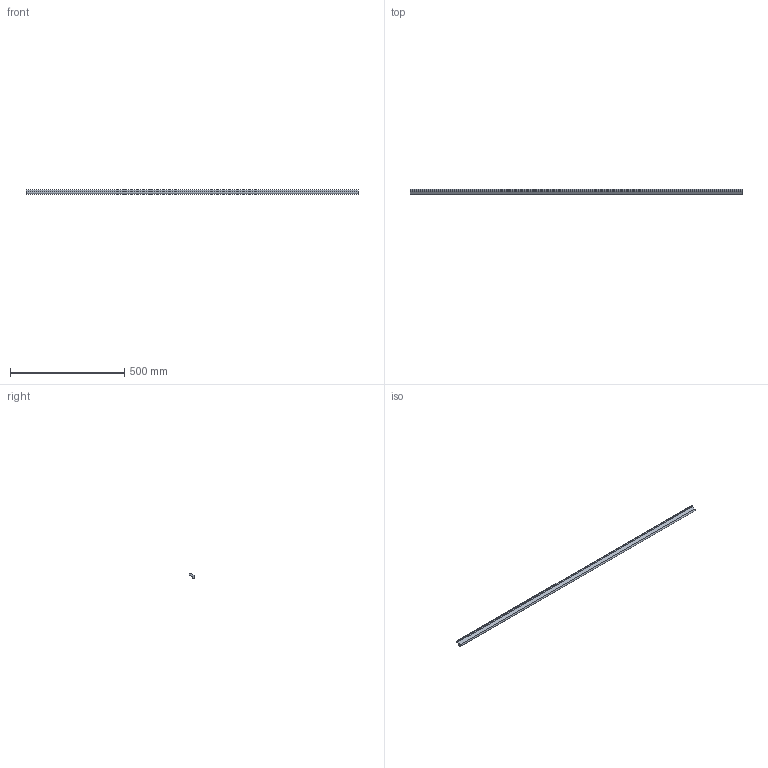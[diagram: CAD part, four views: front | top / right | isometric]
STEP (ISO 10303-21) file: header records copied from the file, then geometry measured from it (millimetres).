
FILE_DESCRIPTION( ( '' ), '1' );
FILE_NAME( 'D:/temp/hettich_stp/hettich/prodecor_handles/organic/115103.stp', '2013-02-26T12:49:35', ( '' ), ( '' ), ' ', ' ', ' ' );
FILE_SCHEMA( ( 'automotive_design' ) );
Length unit declared in the file: millimetre
Products named in the file (1): 1
Bounding box: 1450 x 24 x 19.77 mm (x, y, z)
Volume: 350450.5 mm3; surface area: 103323.3 mm2
Topology: 1 solids, 1 shells, 24 faces, 54 edges, 36 vertices
Faces by surface type: cylinder 13, plane 11
Entity records: 1350 total; most frequent: DIRECTION 130, STYLED_ITEM 115, PRESENTATION_STYLE_ASSIGNMENT 115, CARTESIAN_POINT 115, COLOUR_RGB 115, ORIENTED_EDGE 108, EDGE_CURVE 54, CURVE_STYLE 54
